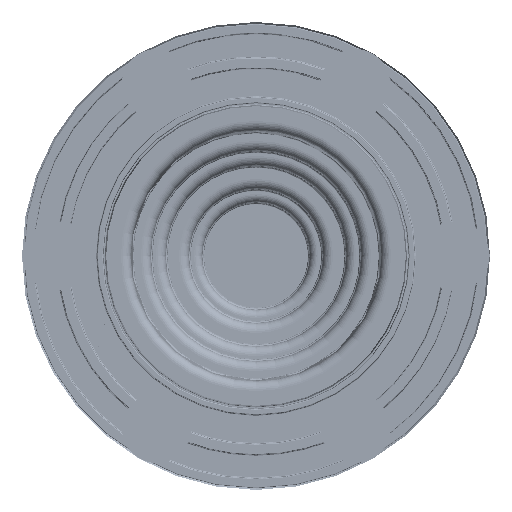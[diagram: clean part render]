
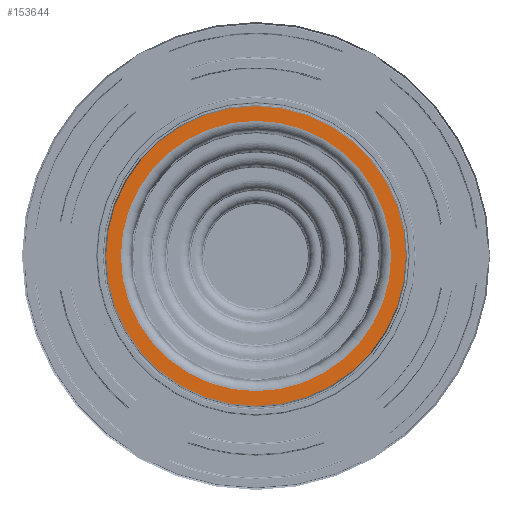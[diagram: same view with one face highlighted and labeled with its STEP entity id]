
A CAD part, front view. The second image highlights one B-rep face of the part: STEP entity #153644.
In plain terms, the highlighted planar face has unit normal (0, -1, 0).
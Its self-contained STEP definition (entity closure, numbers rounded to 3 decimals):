
#5141 = VERTEX_POINT ( 'NONE', #31751 ) ;
#6344 = CIRCLE ( 'NONE', #116874, 40.724 ) ;
#8511 = CARTESIAN_POINT ( 'NONE',  ( 0., 0., 0. ) ) ;
#9702 = ORIENTED_EDGE ( 'NONE', *, *, #85672, .F. ) ;
#13956 = CARTESIAN_POINT ( 'NONE',  ( 0., 0., 0. ) ) ;
#19037 = ORIENTED_EDGE ( 'NONE', *, *, #95456, .T. ) ;
#19100 = CARTESIAN_POINT ( 'NONE',  ( 0., 0., 0. ) ) ;
#21410 = DIRECTION ( 'NONE',  ( 0., -1., 0. ) ) ;
#25065 = VERTEX_POINT ( 'NONE', #148862 ) ;
#31751 = CARTESIAN_POINT ( 'NONE',  ( 0., 0., -40.724 ) ) ;
#38174 = EDGE_CURVE ( 'NONE', #47417, #143960, #104139, .T. ) ;
#39607 = CIRCLE ( 'NONE', #75535, 45.151 ) ;
#41292 = EDGE_CURVE ( 'NONE', #5141, #25065, #120239, .T. ) ;
#41368 = DIRECTION ( 'NONE',  ( 0., 0., 1. ) ) ;
#47417 = VERTEX_POINT ( 'NONE', #101454 ) ;
#55485 = DIRECTION ( 'NONE',  ( 0., -1., 0. ) ) ;
#56605 = DIRECTION ( 'NONE',  ( 0., 1., 0. ) ) ;
#61510 = AXIS2_PLACEMENT_3D ( 'NONE', #139593, #56605, #41368 ) ;
#62015 = EDGE_LOOP ( 'NONE', ( #117743, #9702 ) ) ;
#63026 = DIRECTION ( 'NONE',  ( 0., -1., 0. ) ) ;
#66747 = DIRECTION ( 'NONE',  ( 0., 0., -1. ) ) ;
#75535 = AXIS2_PLACEMENT_3D ( 'NONE', #13956, #63026, #112145 ) ;
#76000 = AXIS2_PLACEMENT_3D ( 'NONE', #115845, #55485, #66747 ) ;
#79174 = FACE_BOUND ( 'NONE', #62015, .T. ) ;
#82627 = DIRECTION ( 'NONE',  ( 0., -1., 0. ) ) ;
#85672 = EDGE_CURVE ( 'NONE', #25065, #5141, #6344, .T. ) ;
#95456 = EDGE_CURVE ( 'NONE', #143960, #47417, #39607, .T. ) ;
#101454 = CARTESIAN_POINT ( 'NONE',  ( 0., 0., 45.151 ) ) ;
#104139 = CIRCLE ( 'NONE', #76000, 45.151 ) ;
#112145 = DIRECTION ( 'NONE',  ( 0., 0., -1. ) ) ;
#112520 = AXIS2_PLACEMENT_3D ( 'NONE', #8511, #21410, #121201 ) ;
#114607 = ORIENTED_EDGE ( 'NONE', *, *, #38174, .T. ) ;
#115845 = CARTESIAN_POINT ( 'NONE',  ( 0., 0., 0. ) ) ;
#116874 = AXIS2_PLACEMENT_3D ( 'NONE', #19100, #82627, #154377 ) ;
#117340 = CARTESIAN_POINT ( 'NONE',  ( 0., 0., -45.151 ) ) ;
#117743 = ORIENTED_EDGE ( 'NONE', *, *, #41292, .F. ) ;
#117786 = PLANE ( 'NONE',  #61510 ) ;
#120239 = CIRCLE ( 'NONE', #112520, 40.724 ) ;
#121201 = DIRECTION ( 'NONE',  ( 0., 0., -1. ) ) ;
#139593 = CARTESIAN_POINT ( 'NONE',  ( 0., 0., 0. ) ) ;
#143960 = VERTEX_POINT ( 'NONE', #117340 ) ;
#146754 = EDGE_LOOP ( 'NONE', ( #114607, #19037 ) ) ;
#148862 = CARTESIAN_POINT ( 'NONE',  ( 0., 0., 40.724 ) ) ;
#151685 = FACE_OUTER_BOUND ( 'NONE', #146754, .T. ) ;
#153644 = ADVANCED_FACE ( 'NONE', ( #79174, #151685 ), #117786, .F. ) ;
#154377 = DIRECTION ( 'NONE',  ( 0., 0., -1. ) ) ;
